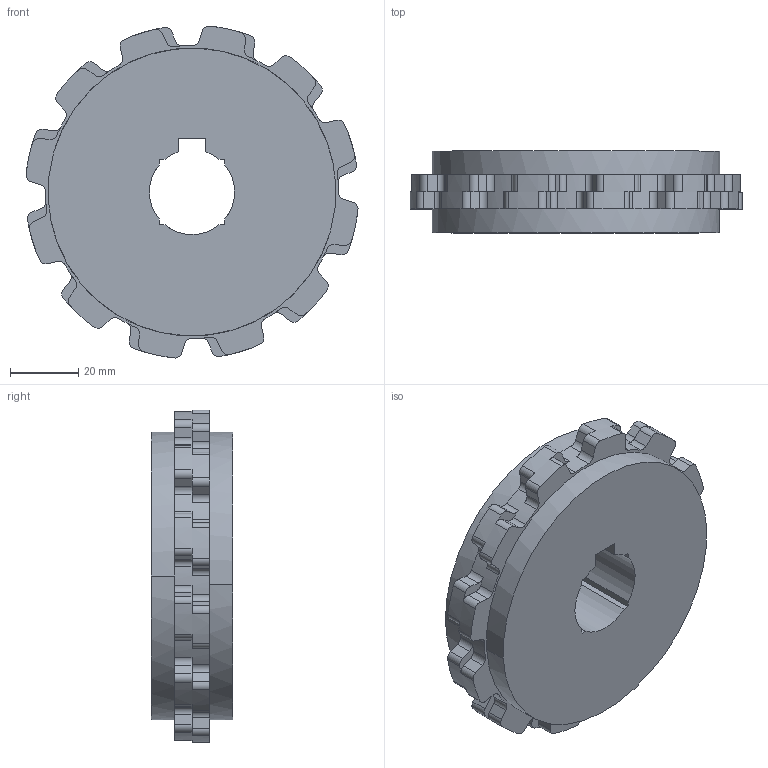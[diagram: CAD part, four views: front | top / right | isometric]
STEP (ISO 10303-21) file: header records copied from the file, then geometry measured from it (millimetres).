
FILE_DESCRIPTION(('CATIA V5 STEP Exchange'),'2;1');
FILE_NAME('C:\Users\ALI OZGUN\Desktop\alhan\TESLIMEDILEN3\391D25Z12.stp','2017-09-21T11:51:25+00:00',('none'),('none'),'CATIA Version 5 Release 21 GA (IN-10)','CATIA V5 STEP AP203','none');
FILE_SCHEMA(('CONFIG_CONTROL_DESIGN'));
Length unit declared in the file: millimetre
Products named in the file (1): 391D25Z12
Bounding box: 97.47 x 24 x 97.47 mm (x, y, z)
Volume: 133570.7 mm3; surface area: 22552.5 mm2
Topology: 1 solids, 1 shells, 216 faces, 636 edges, 424 vertices
Faces by surface type: cylinder 137, plane 79
Entity records: 6940 total; most frequent: CARTESIAN_POINT 1339, ORIENTED_EDGE 1272, DIRECTION 964, EDGE_CURVE 636, AXIS2_PLACEMENT_3D 480, VERTEX_POINT 424, VECTOR 311, LINE 311
